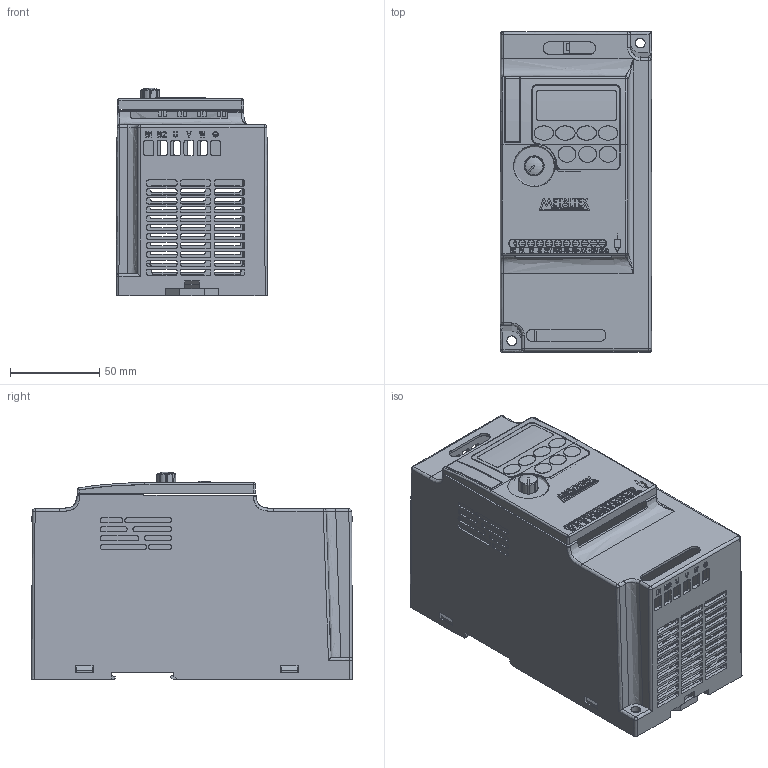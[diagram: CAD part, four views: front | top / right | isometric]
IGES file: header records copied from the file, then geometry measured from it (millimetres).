
Start section: SolidWorks IGES file using analytic representation for surfaces
Global section: file name: D:\X - Arquivos\PROEX\Empresas\P11 - METALTEX\Arquivo - Recebi por e-mail\3\3.1\IF10\IGES\3_7-5_5kw.IGS; native system: SolidWorks 2012; preprocessor: SolidWorks 2012; author: Usuario; date: 190524.101153; units: millimetre
Bounding box: 85.08 x 180.08 x 116.5 mm (x, y, z)
Surface area: 213952.4 mm2 (no closed solid volume)
Topology: 0 solids, 0 shells, 2806 faces, 23266 edges, 23259 vertices
Faces by surface type: bspline 2239, revolution 567
